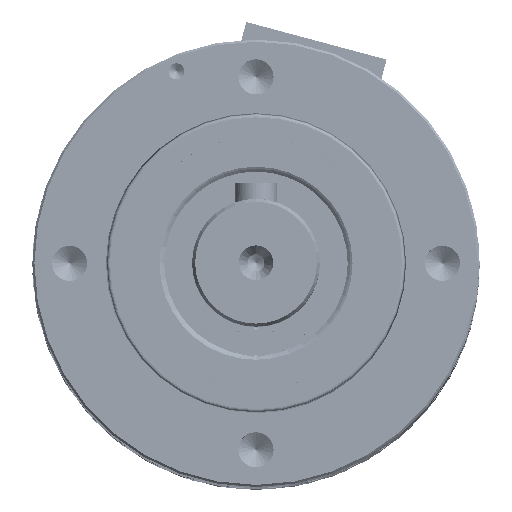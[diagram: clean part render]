
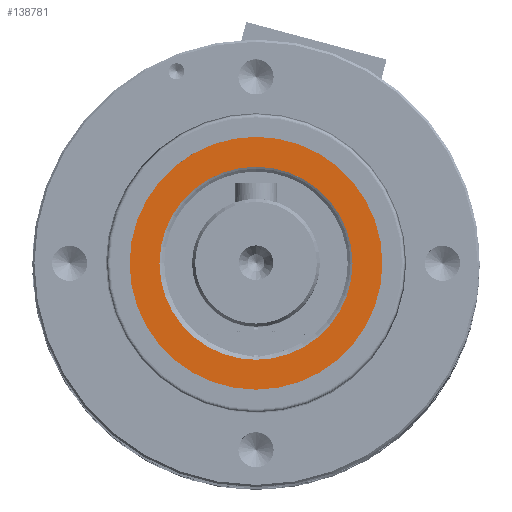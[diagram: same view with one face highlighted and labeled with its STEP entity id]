
A CAD part, top view. The second image highlights one B-rep face of the part: STEP entity #138781.
In plain terms, the highlighted planar face has unit normal (0, 0, 1).
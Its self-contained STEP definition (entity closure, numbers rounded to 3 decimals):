
#165 = FACE_BOUND ( 'NONE', #45473, .T. ) ;
#13162 = DIRECTION ( 'NONE',  ( 0., 0., 1. ) ) ;
#18170 = AXIS2_PLACEMENT_3D ( 'NONE', #93024, #36120, #115805 ) ;
#36120 = DIRECTION ( 'NONE',  ( 0., 0., 1. ) ) ;
#37896 = CARTESIAN_POINT ( 'NONE',  ( 5.131, -8.599, 153.185 ) ) ;
#40433 = CARTESIAN_POINT ( 'NONE',  ( 14.191, -8.599, 153.185 ) ) ;
#45473 = EDGE_LOOP ( 'NONE', ( #79701, #309799 ) ) ;
#61449 = DIRECTION ( 'NONE',  ( 1., 0., 0. ) ) ;
#63294 = CARTESIAN_POINT ( 'NONE',  ( 5.131, -8.599, 153.185 ) ) ;
#71650 = DIRECTION ( 'NONE',  ( 1., 0., 0. ) ) ;
#79701 = ORIENTED_EDGE ( 'NONE', *, *, #299875, .F. ) ;
#86162 = DIRECTION ( 'NONE',  ( 0., 0., 1. ) ) ;
#93024 = CARTESIAN_POINT ( 'NONE',  ( 5.131, -8.599, 153.185 ) ) ;
#115805 = DIRECTION ( 'NONE',  ( 1., 0., 0. ) ) ;
#128518 = CARTESIAN_POINT ( 'NONE',  ( -6.734, -8.599, 153.185 ) ) ;
#135738 = ORIENTED_EDGE ( 'NONE', *, *, #243138, .T. ) ;
#138781 = ADVANCED_FACE ( 'NONE', ( #165, #357667 ), #242443, .T. ) ;
#144822 = DIRECTION ( 'NONE',  ( 1., 0., 0. ) ) ;
#161983 = AXIS2_PLACEMENT_3D ( 'NONE', #247667, #330844, #71650 ) ;
#180462 = EDGE_CURVE ( 'NONE', #369279, #248127, #246662, .T. ) ;
#181445 = CIRCLE ( 'NONE', #18170, 11.865 ) ;
#208325 = DIRECTION ( 'NONE',  ( 1., 0., 0. ) ) ;
#226561 = VERTEX_POINT ( 'NONE', #283853 ) ;
#242443 = PLANE ( 'NONE',  #279443 ) ;
#243138 = EDGE_CURVE ( 'NONE', #369279, #248127, #181445, .T. ) ;
#246662 = CIRCLE ( 'NONE', #161983, 11.865 ) ;
#247476 = CIRCLE ( 'NONE', #362037, 9.06 ) ;
#247667 = CARTESIAN_POINT ( 'NONE',  ( 5.131, -8.599, 153.185 ) ) ;
#248127 = VERTEX_POINT ( 'NONE', #128518 ) ;
#248508 = EDGE_CURVE ( 'NONE', #311638, #226561, #252017, .T. ) ;
#252017 = CIRCLE ( 'NONE', #366605, 9.06 ) ;
#252679 = ORIENTED_EDGE ( 'NONE', *, *, #180462, .F. ) ;
#256554 = EDGE_LOOP ( 'NONE', ( #252679, #135738 ) ) ;
#262168 = CARTESIAN_POINT ( 'NONE',  ( 5.131, -8.599, 153.185 ) ) ;
#279443 = AXIS2_PLACEMENT_3D ( 'NONE', #37896, #13162, #208325 ) ;
#283853 = CARTESIAN_POINT ( 'NONE',  ( -3.929, -8.599, 153.185 ) ) ;
#299875 = EDGE_CURVE ( 'NONE', #311638, #226561, #247476, .T. ) ;
#309799 = ORIENTED_EDGE ( 'NONE', *, *, #248508, .T. ) ;
#311638 = VERTEX_POINT ( 'NONE', #40433 ) ;
#330844 = DIRECTION ( 'NONE',  ( 0., 0., -1. ) ) ;
#345394 = DIRECTION ( 'NONE',  ( 0., 0., -1. ) ) ;
#350279 = CARTESIAN_POINT ( 'NONE',  ( 16.996, -8.599, 153.185 ) ) ;
#357667 = FACE_OUTER_BOUND ( 'NONE', #256554, .T. ) ;
#362037 = AXIS2_PLACEMENT_3D ( 'NONE', #63294, #86162, #61449 ) ;
#366605 = AXIS2_PLACEMENT_3D ( 'NONE', #262168, #345394, #144822 ) ;
#369279 = VERTEX_POINT ( 'NONE', #350279 ) ;
